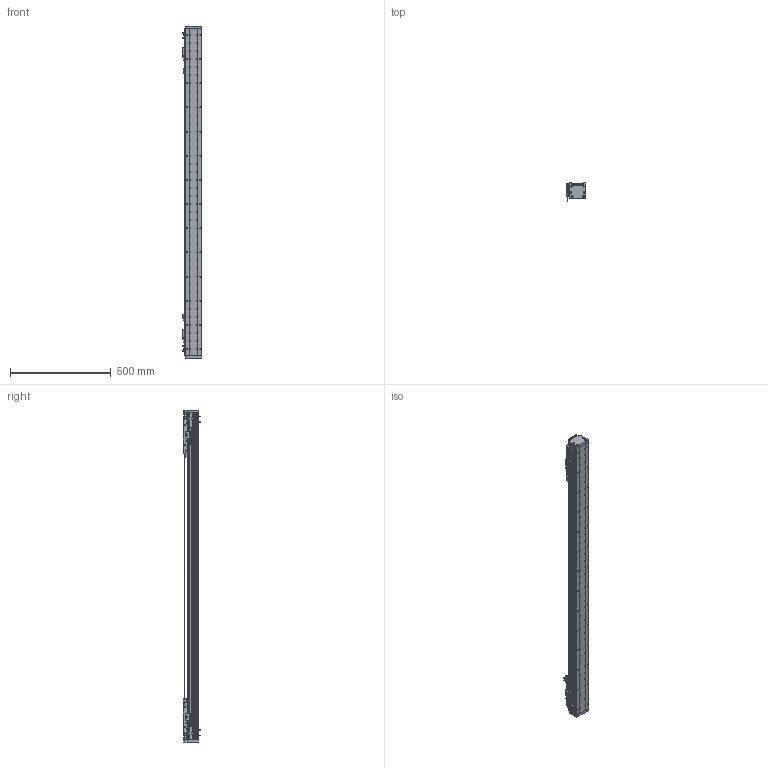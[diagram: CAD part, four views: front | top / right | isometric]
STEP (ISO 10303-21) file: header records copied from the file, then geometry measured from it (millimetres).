
FILE_DESCRIPTION (( 'STEP AP203' ), '1' );
FILE_NAME ('DA-A82-2-B2-T1200-C010-0.2 眻盄萇儂.STEP', '2025-08-13T02:34:09', ( '' ), ( '' ), 'SwSTEP 2.0', 'SolidWorks 2019', '' );
FILE_SCHEMA (( 'CONFIG_CONTROL_DESIGN' ));
Length unit declared in the file: millimetre
Products named in the file (29): 复件 DA82-GYP-ZJ-00 中间光电感应片^DA-A82-B2-T-C010-0.2-N 直线电机; IU-AU82-L 菁釱絳寢; 葩璃 DMT-010 1米m 0.2M^DA-A82-B2-T-C010-0.2-N 眻盄萇儂; 复件 DA82-GDZ-ZJ-00 中间光电固定座^DA-A82-B2-T-C010-0.2-N 直线电机; 复件 XD-U-02  磁栅尺^DA-A82-B2-T-C010-0.2-N 直线电机; 复件 复件 DA82-XJ-00 缓冲橡胶^DA-A82-B2-T-C010-0.2-N 直线电机; 葩璃 PM-T45^DA-A82-B2-T-C010-0.2-N 眻盄萇儂; 复件 复件 复件 DA82 钢带盖板^DA-A82-B2-T-C010-0.2-N 直线电机(默认); AU82-M-00 珨极趙賑雄怢啣; 葩璃 BKM01-W040-TRL^DA-A82-B2-T-C010-0.2-N 眻盄萇儂; 复件 DA95-GT-T-00 底座钢轨^IU-AU82-L 底座导轨; 复件 复件 17517-0000-002-00 端板^DA-A82-B2-T-C010-0.2-N 直线电机; 复件 BKM02-W040-C1-TP-DA-3.0 直线电机动子^DA-A82-B2-T-C010-0.2-N 直线电机; AU82-M 幗紩賑怢-1; AU82-HT-M-00 賑雄怢啣; AU82-M 幗紩賑怢; 复件 六角薄螺母 M3^DA-A82-B2-T-C010-0.2-N 直线电机; 复件 DA60-DMT-DTJ-00 读数头支架^DA-A82-B2-T-C010-0.2-N 直线电机; DA-A60-GYP-DMT-00 光电感应片^DA-A82-B2-T-C010-0.2-N 直线电机(默认); 复件 纯铜油杯 6x6mm^AU82-M 滚珠滑台; 复件 DA95-B2-GT-00 滑块钢轨^AU82-M-00 一体化滑动台板; IU-AU82-L-00 菁釱(L1620); 葩璃 DA82-B2-DP-00 結え^AU82-M 幗紩賑怢; DA-A82-2-B2-T1200-C010-0.2 眻盄萇儂; 复件 DKW-GJ-XJ-00 防撞橡胶^DA-A82-B2-T-C010-0.2-N 直线电机; 复件 复件 17517-0000-004-00  钢带压块^DA-A82-B2-T-C010-0.2-N 直线电机(默认); 葩璃 PM-L25^DA-A82-B2-T-C010-0.2-N 眻盄萇儂; AU82-M-00 珨极趙賑雄怢啣-1; 复件 复件 17517-0000-003-00 钢带拉块^DA-A82-B2-T-C010-0.2-N 直线电机
Assembly tree (61 placements, depth 4):
  DA-A82-2-B2-T1200-C010-0.2 眻盄萇儂
    IU-AU82-L 菁釱絳寢
      IU-AU82-L-00 菁釱(L1620)
      复件 DA95-GT-T-00 底座钢轨^IU-AU82-L 底座导轨  x2
    AU82-M 幗紩賑怢
      AU82-M-00 珨极趙賑雄怢啣
        AU82-HT-M-00 賑雄怢啣
        复件 DA95-B2-GT-00 滑块钢轨^AU82-M-00 一体化滑动台板  x4
      葩璃 DA82-B2-DP-00 結え^AU82-M 幗紩賑怢  x2
      复件 纯铜油杯 6x6mm^AU82-M 滚珠滑台  x2
    AU82-M 幗紩賑怢-1
      AU82-M-00 珨极趙賑雄怢啣-1
        AU82-HT-M-00 賑雄怢啣
        复件 DA95-B2-GT-00 滑块钢轨^AU82-M-00 一体化滑动台板  x4
      葩璃 DA82-B2-DP-00 結え^AU82-M 幗紩賑怢  x2
      复件 纯铜油杯 6x6mm^AU82-M 滚珠滑台  x2
    复件 BKM02-W040-C1-TP-DA-3.0 直线电机动子^DA-A82-B2-T-C010-0.2-N 直线电机  x2
    复件 DA60-DMT-DTJ-00 读数头支架^DA-A82-B2-T-C010-0.2-N 直线电机  x2
    葩璃 DMT-010 1米m 0.2M^DA-A82-B2-T-C010-0.2-N 眻盄萇儂  x2
    DA-A60-GYP-DMT-00 光电感应片^DA-A82-B2-T-C010-0.2-N 直线电机(默认)  x2
    复件 DA82-GDZ-ZJ-00 中间光电固定座^DA-A82-B2-T-C010-0.2-N 直线电机
    葩璃 PM-L25^DA-A82-B2-T-C010-0.2-N 眻盄萇儂
    复件 DA82-GYP-ZJ-00 中间光电感应片^DA-A82-B2-T-C010-0.2-N 直线电机
    复件 DKW-GJ-XJ-00 防撞橡胶^DA-A82-B2-T-C010-0.2-N 直线电机
    复件 复件 17517-0000-003-00 钢带拉块^DA-A82-B2-T-C010-0.2-N 直线电机  x2
    复件 复件 DA82-XJ-00 缓冲橡胶^DA-A82-B2-T-C010-0.2-N 直线电机  x2
    复件 复件 17517-0000-004-00  钢带压块^DA-A82-B2-T-C010-0.2-N 直线电机(默认)  x2
    复件 复件 17517-0000-002-00 端板^DA-A82-B2-T-C010-0.2-N 直线电机  x2
    复件 复件 复件 DA82 钢带盖板^DA-A82-B2-T-C010-0.2-N 直线电机(默认)
    葩璃 BKM01-W040-TRL^DA-A82-B2-T-C010-0.2-N 眻盄萇儂
    葩璃 PM-T45^DA-A82-B2-T-C010-0.2-N 眻盄萇儂  x4
    复件 XD-U-02  磁栅尺^DA-A82-B2-T-C010-0.2-N 直线电机
    复件 六角薄螺母 M3^DA-A82-B2-T-C010-0.2-N 直线电机  x8
Bounding box: 98.95 x 87.2 x 1648 mm (x, y, z)
Volume: 5194815.9 mm3; surface area: 1547247.4 mm2
Topology: 70 solids, 118 shells, 3409 faces, 8813 edges, 5478 vertices
Faces by surface type: cylinder 1563, plane 1354, cone 456, bspline 16, torus 16, sphere 4
Entity records: 71307 total; most frequent: CARTESIAN_POINT 15845, DIRECTION 11051, ORIENTED_EDGE 10408, EDGE_CURVE 5204, AXIS2_PLACEMENT_3D 4209, VERTEX_POINT 3382, EDGE_LOOP 2646, VECTOR 2633
